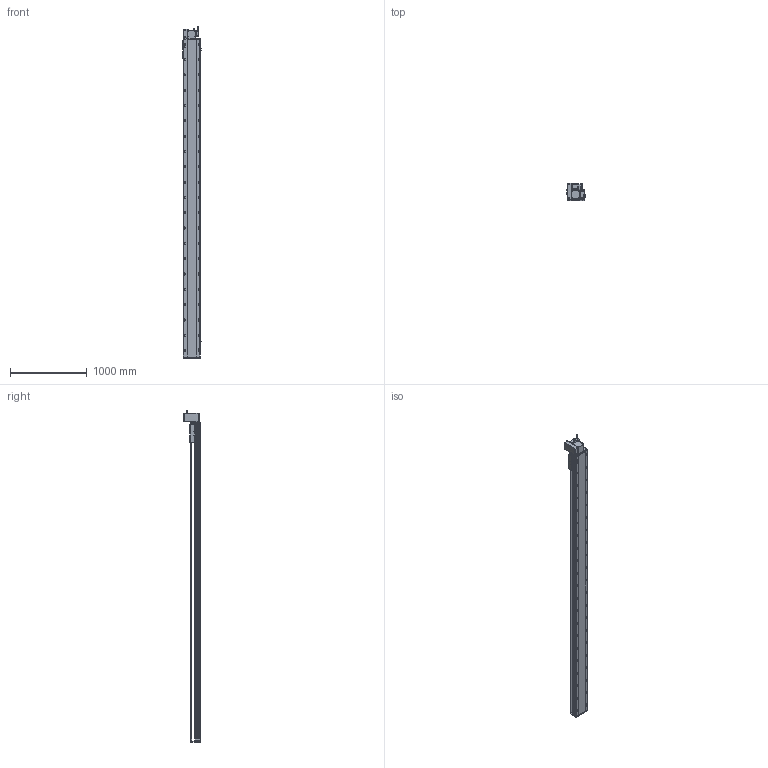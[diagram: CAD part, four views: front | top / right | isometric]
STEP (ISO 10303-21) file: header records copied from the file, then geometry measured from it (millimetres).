
FILE_DESCRIPTION (( 'STEP AP214' ), '1' );
FILE_NAME ('RTB22S-XX-3800-LW-M75-C4.STEP', '2025-12-12T07:10:01', ( '' ), ( '' ), 'SwSTEP 2.0', 'SolidWorks 2018', '' );
FILE_SCHEMA (( 'AUTOMOTIVE_DESIGN' ));
Length unit declared in the file: millimetre
Products named in the file (14): RTB22S-GY-017P^RTB22S-LW-々湍釱蚾饜_RTB22S-XX-XX-LW-M75-C4; RTB22S-GY-001耜裔^RTB22S-XX-XX-LW-M75-C4; 750W萇儂^RTB22S-XX-XX-LW-M75-C4; RTB22S-L-011菁釱^RTB22S-XX-XX-LW-M75-C4; RTB22S-XX-3800-LW-M75-C4; RTH22-GY-013外置感应片^RTB22S-XX-XX-LW-M75-C4; RTB22S-L-004賑釱^RTB22S-XX-XX-LW-M75-C4; RTB22S-GY-014--々湍釱^RTB22S-LW-々湍釱蚾饜_RTB22S-XX-XX-LW-M75-C4; RTB22S-LW-々湍釱蚾饜^RTB22S-XX-XX-LW-M75-C4; RTB22S-GY-005P^RTB22S-LW-々湍釱蚾饜_RTB22S-XX-XX-LW-M75-C4; RTB22S-GY-007奻裔^RTB22S-XX-XX-LW-M75-C4; RTB22S-GY-018P^RTB22S-LW-々湍釱蚾饜_RTB22S-XX-XX-LW-M75-C4; OMRON EE-SX672 传感器^RTB22S-XX-XX-LW-M75-C4; RTB22S-GY-008-M75--萇儂啣^RTB22S-LW-々湍釱蚾饜_RTB22S-XX-XX-LW-M75-C4
Assembly tree (16 placements, depth 3):
  RTB22S-XX-3800-LW-M75-C4
    RTB22S-L-011菁釱^RTB22S-XX-XX-LW-M75-C4
    RTB22S-GY-001耜裔^RTB22S-XX-XX-LW-M75-C4
    750W萇儂^RTB22S-XX-XX-LW-M75-C4
    RTB22S-GY-007奻裔^RTB22S-XX-XX-LW-M75-C4
    RTB22S-L-004賑釱^RTB22S-XX-XX-LW-M75-C4
    RTH22-GY-013外置感应片^RTB22S-XX-XX-LW-M75-C4
    OMRON EE-SX672 传感器^RTB22S-XX-XX-LW-M75-C4  x3
    RTB22S-LW-々湍釱蚾饜^RTB22S-XX-XX-LW-M75-C4
      RTB22S-GY-014--々湍釱^RTB22S-LW-々湍釱蚾饜_RTB22S-XX-XX-LW-M75-C4
      RTB22S-GY-017P^RTB22S-LW-々湍釱蚾饜_RTB22S-XX-XX-LW-M75-C4  x2
      RTB22S-GY-005P^RTB22S-LW-々湍釱蚾饜_RTB22S-XX-XX-LW-M75-C4
      RTB22S-GY-008-M75--萇儂啣^RTB22S-LW-々湍釱蚾饜_RTB22S-XX-XX-LW-M75-C4
      RTB22S-GY-018P^RTB22S-LW-々湍釱蚾饜_RTB22S-XX-XX-LW-M75-C4
Bounding box: 238.5 x 215.5 x 4332.2 mm (x, y, z)
Volume: 53912616.2 mm3; surface area: 5477253 mm2
Topology: 15 solids, 15 shells, 2217 faces, 6036 edges, 3842 vertices
Faces by surface type: plane 941, cylinder 778, bspline 296, cone 190, sphere 8, torus 4
Entity records: 61322 total; most frequent: CARTESIAN_POINT 17096, ORIENTED_EDGE 8756, DIRECTION 8652, EDGE_CURVE 4378, AXIS2_PLACEMENT_3D 3138, VERTEX_POINT 2846, VECTOR 2376, LINE 2376
